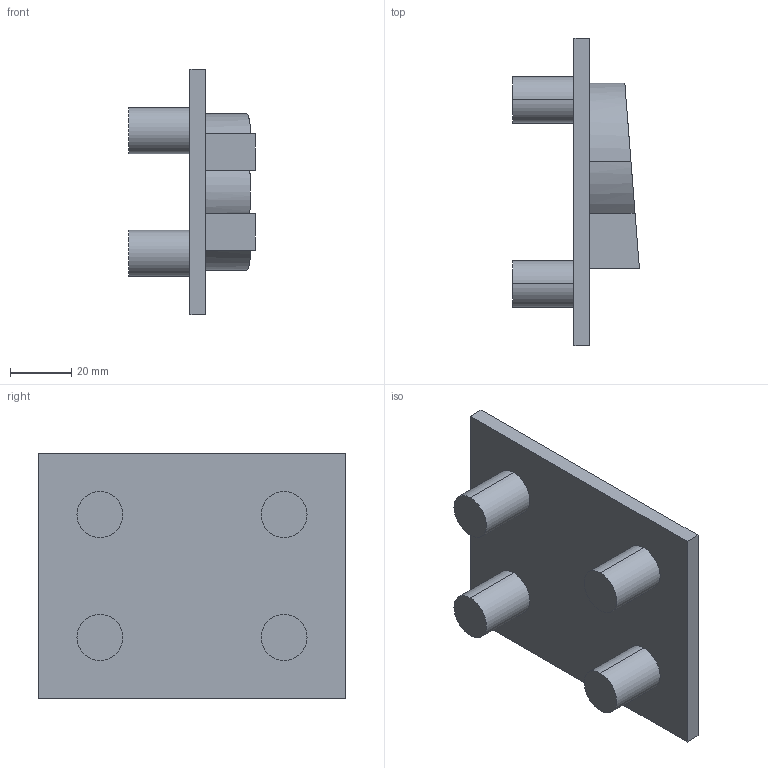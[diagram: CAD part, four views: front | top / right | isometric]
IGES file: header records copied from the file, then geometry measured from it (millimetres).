
Start section: IMSI TurboCAD v14.0
Global section: author: NULL; organization: NULL; date: 20250711.181409; units: millimetre
Bounding box: 41.32 x 100 x 80 mm (x, y, z)
Surface area: 28206.1 mm2 (no closed solid volume)
Topology: 0 solids, 0 shells, 40 faces, 205 edges, 208 vertices
Faces by surface type: revolution 20, extrusion 20
